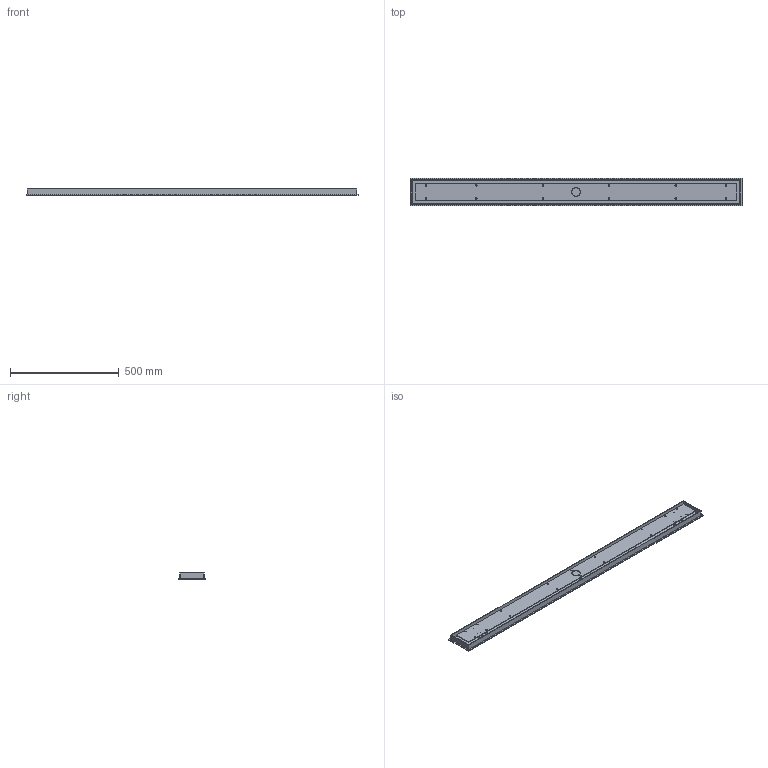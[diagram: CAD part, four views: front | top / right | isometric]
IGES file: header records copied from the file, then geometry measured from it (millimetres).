
Global section: file name: /Users/danielszollosi/Documents/SkLO/DEVELOPMENT/LIGHT 2024/MULTIPENDANT CANOPIES/Linear Multipendant Canopies/SkLO_Linear_Canopy_5'_MCL05/3D/SkLO_Linear_Canopy_5'_MCL05_3D.igs; native system: Rhinoceros ( Sep 24 2023 ); preprocessor: Trout Lake IGES 012 Sep 24 2023; date: 241018.143900; units: millimetre
Bounding box: 1525 x 127 x 28.3 mm (x, y, z)
Surface area: 809084.4 mm2 (no closed solid volume)
Topology: 0 solids, 0 shells, 173 faces, 1106 edges, 1016 vertices
Faces by surface type: bspline 173
